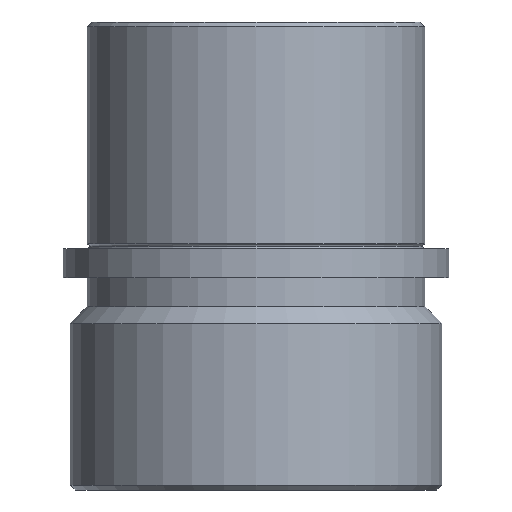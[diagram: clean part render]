
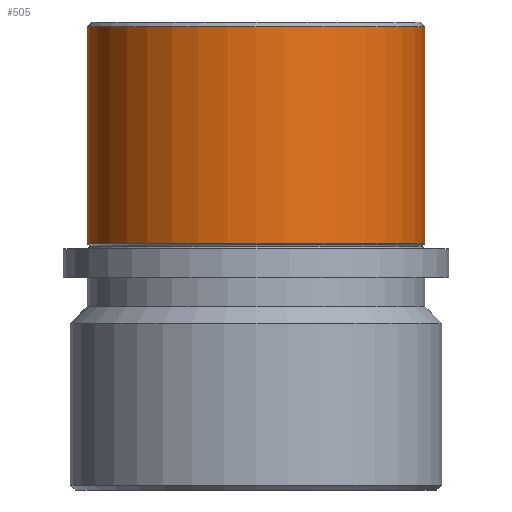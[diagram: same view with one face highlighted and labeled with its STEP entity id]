
A CAD part, front view. The second image highlights one B-rep face of the part: STEP entity #505.
In plain terms, the highlighted cylindrical face has radius 35 mm (diameter 70 mm), a partial arc.
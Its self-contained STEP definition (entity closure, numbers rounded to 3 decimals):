
#6 = VECTOR ( 'NONE', #869, 1000. ) ;
#49 = VERTEX_POINT ( 'NONE', #450 ) ;
#63 = EDGE_CURVE ( 'NONE', #591, #49, #462, .T. ) ;
#97 = CARTESIAN_POINT ( 'NONE',  ( 35., 0., 0. ) ) ;
#120 = DIRECTION ( 'NONE',  ( 1., 0., 0. ) ) ;
#123 = CARTESIAN_POINT ( 'NONE',  ( 0., 0., -1. ) ) ;
#145 = DIRECTION ( 'NONE',  ( 1., 0., 0. ) ) ;
#194 = VECTOR ( 'NONE', #308, 1000. ) ;
#213 = EDGE_LOOP ( 'NONE', ( #295, #368, #406, #874 ) ) ;
#214 = VERTEX_POINT ( 'NONE', #828 ) ;
#215 = DIRECTION ( 'NONE',  ( 0., 0., 1. ) ) ;
#239 = CARTESIAN_POINT ( 'NONE',  ( 0., 0., 0. ) ) ;
#289 = CARTESIAN_POINT ( 'NONE',  ( 0., 0., -46. ) ) ;
#290 = AXIS2_PLACEMENT_3D ( 'NONE', #239, #215, #145 ) ;
#295 = ORIENTED_EDGE ( 'NONE', *, *, #63, .F. ) ;
#308 = DIRECTION ( 'NONE',  ( 0., 0., 1. ) ) ;
#341 = EDGE_CURVE ( 'NONE', #214, #348, #1051, .T. ) ;
#348 = VERTEX_POINT ( 'NONE', #1047 ) ;
#368 = ORIENTED_EDGE ( 'NONE', *, *, #795, .T. ) ;
#394 = DIRECTION ( 'NONE',  ( 0., 0., 1. ) ) ;
#406 = ORIENTED_EDGE ( 'NONE', *, *, #341, .T. ) ;
#450 = CARTESIAN_POINT ( 'NONE',  ( -35., 0., -1. ) ) ;
#462 = LINE ( 'NONE', #544, #6 ) ;
#481 = CIRCLE ( 'NONE', #626, 35. ) ;
#491 = DIRECTION ( 'NONE',  ( 1., 0., 0. ) ) ;
#505 = ADVANCED_FACE ( 'NONE', ( #1067 ), #866, .T. ) ;
#544 = CARTESIAN_POINT ( 'NONE',  ( -35., 0., 0. ) ) ;
#591 = VERTEX_POINT ( 'NONE', #803 ) ;
#606 = CIRCLE ( 'NONE', #956, 35. ) ;
#626 = AXIS2_PLACEMENT_3D ( 'NONE', #289, #394, #491 ) ;
#795 = EDGE_CURVE ( 'NONE', #591, #214, #481, .T. ) ;
#803 = CARTESIAN_POINT ( 'NONE',  ( -35., 0., -46. ) ) ;
#828 = CARTESIAN_POINT ( 'NONE',  ( 35., 0., -46. ) ) ;
#842 = EDGE_CURVE ( 'NONE', #348, #49, #606, .T. ) ;
#866 = CYLINDRICAL_SURFACE ( 'NONE', #290, 35. ) ;
#869 = DIRECTION ( 'NONE',  ( 0., 0., 1. ) ) ;
#874 = ORIENTED_EDGE ( 'NONE', *, *, #842, .T. ) ;
#892 = DIRECTION ( 'NONE',  ( 0., 0., -1. ) ) ;
#956 = AXIS2_PLACEMENT_3D ( 'NONE', #123, #892, #120 ) ;
#1047 = CARTESIAN_POINT ( 'NONE',  ( 35., 0., -1. ) ) ;
#1051 = LINE ( 'NONE', #97, #194 ) ;
#1067 = FACE_OUTER_BOUND ( 'NONE', #213, .T. ) ;
